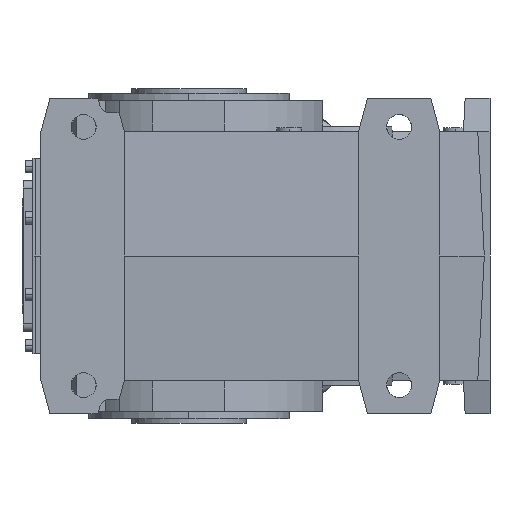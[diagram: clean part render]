
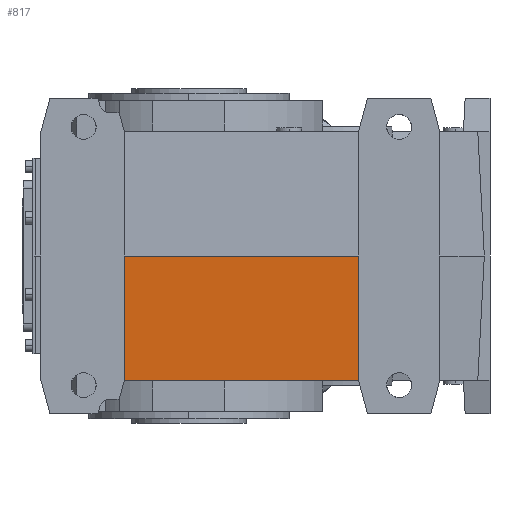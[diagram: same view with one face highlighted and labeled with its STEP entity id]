
A CAD part, left-side view. The second image highlights one B-rep face of the part: STEP entity #817.
In plain terms, the highlighted planar face has unit normal (-0.999, 0, -0.052).
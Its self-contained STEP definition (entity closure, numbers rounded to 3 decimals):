
#817 = ADVANCED_FACE( '', ( #3768 ), #3769, .F. );
#3768 = FACE_OUTER_BOUND( '', #9321, .T. );
#3769 = PLANE( '', #9322 );
#9321 = EDGE_LOOP( '', ( #16284, #16285, #16286, #16287 ) );
#9322 = AXIS2_PLACEMENT_3D( '', #16288, #16289, #16290 );
#16284 = ORIENTED_EDGE( '', *, *, #37379, .F. );
#16285 = ORIENTED_EDGE( '', *, *, #37376, .F. );
#16286 = ORIENTED_EDGE( '', *, *, #37380, .F. );
#16287 = ORIENTED_EDGE( '', *, *, #37381, .T. );
#16288 = CARTESIAN_POINT( '', ( -194., 67.5, 0. ) );
#16289 = DIRECTION( '', ( 0.999, 0., 0.052 ) );
#16290 = DIRECTION( '', ( -0.052, 0., 0.999 ) );
#37376 = EDGE_CURVE( '', #45058, #45060, #45061, .T. );
#37379 = EDGE_CURVE( '', #45060, #45065, #45066, .T. );
#37380 = EDGE_CURVE( '', #45067, #45058, #45068, .T. );
#37381 = EDGE_CURVE( '', #45067, #45065, #45069, .T. );
#45058 = VERTEX_POINT( '', #57503 );
#45060 = VERTEX_POINT( '', #57506 );
#45061 = LINE( '', #57507, #57508 );
#45065 = VERTEX_POINT( '', #57514 );
#45066 = LINE( '', #57515, #57516 );
#45067 = VERTEX_POINT( '', #57517 );
#45068 = LINE( '', #57518, #57519 );
#45069 = LINE( '', #57520, #57521 );
#57503 = CARTESIAN_POINT( '', ( -194., -177.5, 0. ) );
#57506 = CARTESIAN_POINT( '', ( -187.187, -177.5, -130. ) );
#57507 = CARTESIAN_POINT( '', ( -194., -177.5, 0. ) );
#57508 = VECTOR( '', #76129, 1. );
#57514 = CARTESIAN_POINT( '', ( -187.187, 67.5, -130. ) );
#57515 = CARTESIAN_POINT( '', ( -187.187, 16.25, -130. ) );
#57516 = VECTOR( '', #76132, 1. );
#57517 = CARTESIAN_POINT( '', ( -194., 67.5, 0. ) );
#57518 = CARTESIAN_POINT( '', ( -194., 67.5, 0. ) );
#57519 = VECTOR( '', #76133, 1. );
#57520 = CARTESIAN_POINT( '', ( -194., 67.5, 0. ) );
#57521 = VECTOR( '', #76134, 1. );
#76129 = DIRECTION( '', ( 0.052, 0., -0.999 ) );
#76132 = DIRECTION( '', ( 0., 1., 0. ) );
#76133 = DIRECTION( '', ( 0., -1., 0. ) );
#76134 = DIRECTION( '', ( 0.052, 0., -0.999 ) );
